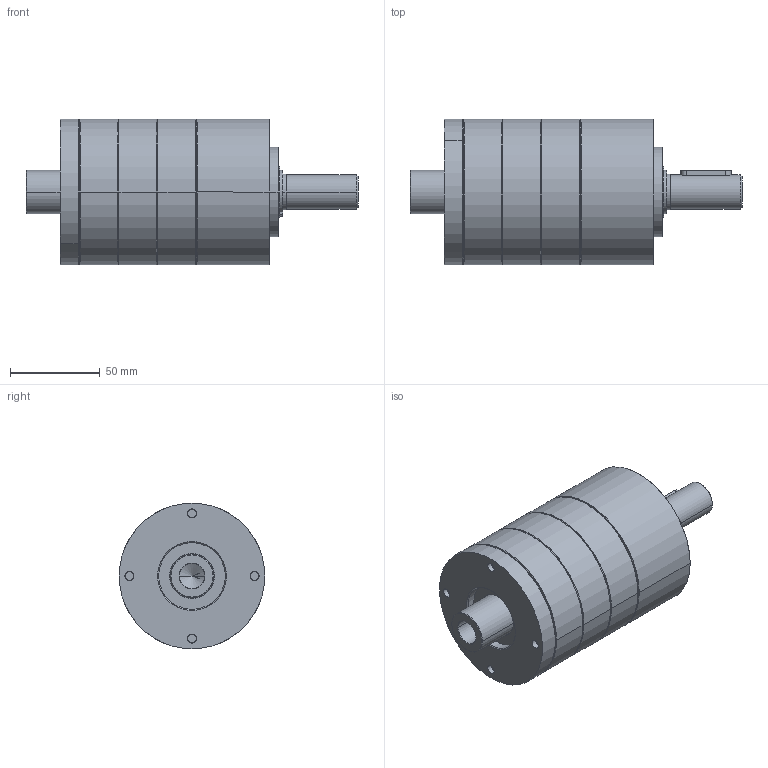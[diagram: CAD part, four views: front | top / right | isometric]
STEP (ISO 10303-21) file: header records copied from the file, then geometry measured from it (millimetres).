
FILE_DESCRIPTION((''),'2;1');
FILE_NAME('IMS81_PRO_3_STAGE_ASM','2024-09-02T13:09:44',('mhummel'),(''),'CREO PARAMETRIC BY PTC INC, 2020184','CREO PARAMETRIC BY PTC INC, 2020184','');
FILE_SCHEMA(('AUTOMOTIVE_DESIGN { 1 0 10303 214 1 1 1 1 }'));
Length unit declared in the file: millimetre
Products named in the file (14): IMS81_PRO_BEARING_FLANGE; IMS81_PRO_BALL_BEARING; IMS81_PRO_RING_GEAR_3_STAGE; IMS81_PRO_MOTOR_FLANGE; IMS81_PRO_SHIM_RING; IMS81_PRO_SHAFT_RAW_AF0; IMS81_PRO_SHAFT_ASM; IMS81_PRO_RETAINING_RING_A; IMS81_PRO_FEATHER_KEY; IMS81_PRO_THRUST_WASHER_1_STAGE; IMS81_PRO_SCREW_3_STAGE; IMS81_PRO_PINION_LONG; IMS81_PRO_PINION_SHORT; IMS81_PRO_3_STAGE_ASM
Assembly tree (17 placements, depth 3):
  IMS81_PRO_3_STAGE_ASM
    IMS81_PRO_BEARING_FLANGE
    IMS81_PRO_BALL_BEARING  x2
    IMS81_PRO_RING_GEAR_3_STAGE
    IMS81_PRO_MOTOR_FLANGE
    IMS81_PRO_SHIM_RING
    IMS81_PRO_SHAFT_ASM
      IMS81_PRO_SHAFT_RAW_AF0
    IMS81_PRO_RETAINING_RING_A
    IMS81_PRO_FEATHER_KEY
    IMS81_PRO_THRUST_WASHER_1_STAGE
    IMS81_PRO_SCREW_3_STAGE  x4
    IMS81_PRO_PINION_LONG
    IMS81_PRO_PINION_SHORT
Bounding box: 184.45 x 81 x 81 mm (x, y, z)
Volume: 458472.5 mm3; surface area: 132345.6 mm2
Topology: 20 solids, 22 shells, 412 faces, 877 edges, 522 vertices
Faces by surface type: cylinder 160, cone 100, plane 96, torus 56
Entity records: 12326 total; most frequent: DIRECTION 1785, CARTESIAN_POINT 1521, ORIENTED_EDGE 1358, AXIS2_PLACEMENT_3D 756, PRESENTATION_STYLE_ASSIGNMENT 752, STYLED_ITEM 725, CURVE_STYLE 679, EDGE_CURVE 679
